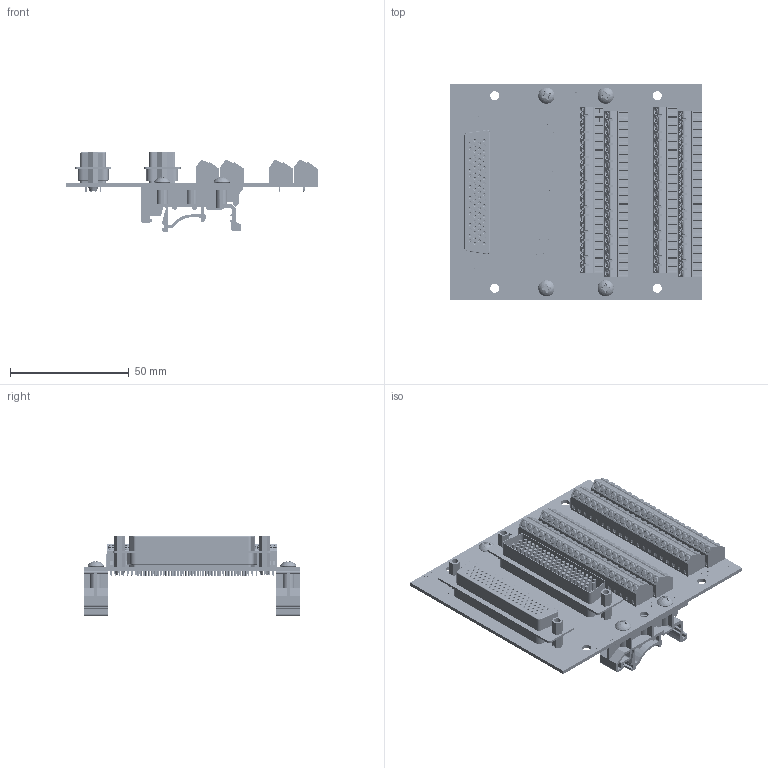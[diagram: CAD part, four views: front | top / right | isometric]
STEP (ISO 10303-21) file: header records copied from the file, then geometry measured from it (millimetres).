
FILE_DESCRIPTION (( 'STEP AP214' ), '1' );
FILE_NAME ('brk78hdmf-s-din_rev_a.stp', '2019-03-24T02:38:34', ( '' ), ( '' ), 'SwSTEP 2.0', 'SolidWorks 2017', '' );
FILE_SCHEMA (( 'AUTOMOTIVE_DESIGN' ));
Length unit declared in the file: inch
Products named in the file (8): Screw_SCSMPP-6-0.375_90184A127; Female Straight 78 Pin; Eurostyle PCB Terminal 3; Eurostyle PCB Terminal 2; dinm01; Male Straight 78 Pin; brk78hdmf-s-din_rev_a; DB78HD Board
Assembly tree (37 placements, depth 2):
  brk78hdmf-s-din_rev_a
    DB78HD Board
    dinm01  x2
    Eurostyle PCB Terminal 2  x4
    Eurostyle PCB Terminal 3  x24
    Screw_SCSMPP-6-0.375_90184A127  x4
    Female Straight 78 Pin
    Male Straight 78 Pin
Bounding box: 106.68 x 91.44 x 33.47 mm (x, y, z)
Volume: 35245.1 mm3; surface area: 66549.7 mm2
Topology: 9 solids, 93 shells, 11451 faces, 29838 edges, 19592 vertices
Faces by surface type: plane 7332, cylinder 2446, bspline 1288, cone 205, torus 172, sphere 8
Entity records: 145862 total; most frequent: CARTESIAN_POINT 42155, ORIENTED_EDGE 17628, DIRECTION 17506, EDGE_CURVE 8820, AXIS2_PLACEMENT_3D 6364, VERTEX_POINT 5804, VECTOR 4778, LINE 4778
